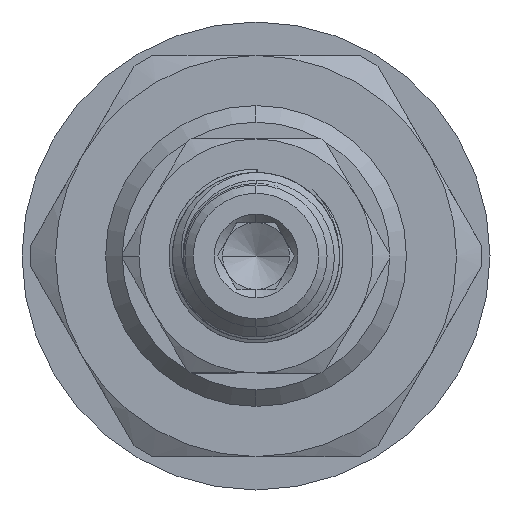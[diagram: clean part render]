
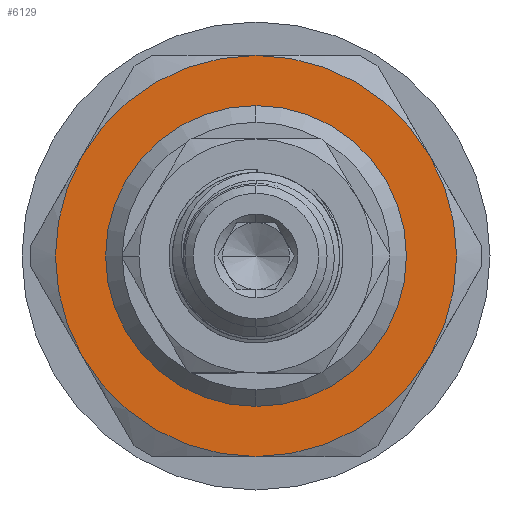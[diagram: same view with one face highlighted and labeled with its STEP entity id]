
A CAD part, left-side view. The second image highlights one B-rep face of the part: STEP entity #6129.
In plain terms, the highlighted planar face has unit normal (-1, 0, 0).
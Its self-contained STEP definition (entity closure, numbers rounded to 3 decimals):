
#177 = ORIENTED_EDGE ( 'NONE', *, *, #7992, .F. ) ;
#261 = EDGE_LOOP ( 'NONE', ( #4528, #13914, #1046, #13199, #177, #12728 ) ) ;
#613 = CIRCLE ( 'NONE', #6433, 12. ) ;
#1046 = ORIENTED_EDGE ( 'NONE', *, *, #1987, .F. ) ;
#1150 = VERTEX_POINT ( 'NONE', #6801 ) ;
#1635 = FACE_OUTER_BOUND ( 'NONE', #261, .T. ) ;
#1799 = CARTESIAN_POINT ( 'NONE',  ( -30.529, -0.516, 12. ) ) ;
#1987 = EDGE_CURVE ( 'NONE', #3637, #10742, #18203, .T. ) ;
#2061 = CARTESIAN_POINT ( 'NONE',  ( -30.529, -0.516, 0. ) ) ;
#2494 = CIRCLE ( 'NONE', #11277, 12. ) ;
#2912 = DIRECTION ( 'NONE',  ( 1., 0., 0. ) ) ;
#3050 = CARTESIAN_POINT ( 'NONE',  ( -30.529, -0.516, 0. ) ) ;
#3506 = DIRECTION ( 'NONE',  ( 0., 0., -1. ) ) ;
#3513 = DIRECTION ( 'NONE',  ( 1., 0., 0. ) ) ;
#3637 = VERTEX_POINT ( 'NONE', #14265 ) ;
#3833 = AXIS2_PLACEMENT_3D ( 'NONE', #15659, #7155, #17091 ) ;
#3903 = EDGE_CURVE ( 'NONE', #1150, #7172, #2494, .T. ) ;
#4292 = CARTESIAN_POINT ( 'NONE',  ( -30.529, -0.516, 0. ) ) ;
#4481 = DIRECTION ( 'NONE',  ( 0., 0., -1. ) ) ;
#4491 = AXIS2_PLACEMENT_3D ( 'NONE', #12030, #3513, #13472 ) ;
#4528 = ORIENTED_EDGE ( 'NONE', *, *, #17158, .F. ) ;
#4795 = VERTEX_POINT ( 'NONE', #5341 ) ;
#4802 = DIRECTION ( 'NONE',  ( 1., 0., 0. ) ) ;
#4975 = FACE_BOUND ( 'NONE', #13650, .T. ) ;
#5161 = AXIS2_PLACEMENT_3D ( 'NONE', #11427, #2912, #12867 ) ;
#5341 = CARTESIAN_POINT ( 'NONE',  ( -30.529, 9.876, -6. ) ) ;
#5708 = PLANE ( 'NONE',  #5161 ) ;
#5716 = DIRECTION ( 'NONE',  ( 0., 0., 1. ) ) ;
#5931 = CIRCLE ( 'NONE', #3833, 12. ) ;
#6129 = ADVANCED_FACE ( 'NONE', ( #4975, #1635 ), #5708, .F. ) ;
#6433 = AXIS2_PLACEMENT_3D ( 'NONE', #7828, #17760, #9261 ) ;
#6801 = CARTESIAN_POINT ( 'NONE',  ( -30.529, 9.876, 6. ) ) ;
#6820 = CARTESIAN_POINT ( 'NONE',  ( -30.529, -0.516, 9. ) ) ;
#7155 = DIRECTION ( 'NONE',  ( 1., 0., 0. ) ) ;
#7172 = VERTEX_POINT ( 'NONE', #1799 ) ;
#7472 = DIRECTION ( 'NONE',  ( 1., 0., 0. ) ) ;
#7489 = AXIS2_PLACEMENT_3D ( 'NONE', #4292, #14215, #5716 ) ;
#7828 = CARTESIAN_POINT ( 'NONE',  ( -30.529, -0.516, 0. ) ) ;
#7956 = EDGE_CURVE ( 'NONE', #13149, #15252, #11086, .T. ) ;
#7992 = EDGE_CURVE ( 'NONE', #7172, #16474, #14828, .T. ) ;
#8449 = AXIS2_PLACEMENT_3D ( 'NONE', #3050, #12998, #4481 ) ;
#9261 = DIRECTION ( 'NONE',  ( 0., 0., -1. ) ) ;
#10155 = EDGE_CURVE ( 'NONE', #16474, #3637, #16952, .T. ) ;
#10742 = VERTEX_POINT ( 'NONE', #13492 ) ;
#11086 = CIRCLE ( 'NONE', #7489, 9. ) ;
#11277 = AXIS2_PLACEMENT_3D ( 'NONE', #2061, #12021, #3506 ) ;
#11427 = CARTESIAN_POINT ( 'NONE',  ( -30.529, -12.66, 12.144 ) ) ;
#11741 = AXIS2_PLACEMENT_3D ( 'NONE', #13327, #4802, #14729 ) ;
#12021 = DIRECTION ( 'NONE',  ( 1., 0., 0. ) ) ;
#12030 = CARTESIAN_POINT ( 'NONE',  ( -30.529, -0.516, 0. ) ) ;
#12728 = ORIENTED_EDGE ( 'NONE', *, *, #3903, .F. ) ;
#12867 = DIRECTION ( 'NONE',  ( 0., 0., -1. ) ) ;
#12998 = DIRECTION ( 'NONE',  ( 1., 0., 0. ) ) ;
#13149 = VERTEX_POINT ( 'NONE', #6820 ) ;
#13169 = CARTESIAN_POINT ( 'NONE',  ( -30.529, -0.516, -9. ) ) ;
#13199 = ORIENTED_EDGE ( 'NONE', *, *, #10155, .F. ) ;
#13327 = CARTESIAN_POINT ( 'NONE',  ( -30.529, -0.516, 0. ) ) ;
#13472 = DIRECTION ( 'NONE',  ( 0., 0., -1. ) ) ;
#13492 = CARTESIAN_POINT ( 'NONE',  ( -30.529, -0.516, -12. ) ) ;
#13650 = EDGE_LOOP ( 'NONE', ( #15894, #15236 ) ) ;
#13914 = ORIENTED_EDGE ( 'NONE', *, *, #16923, .F. ) ;
#14215 = DIRECTION ( 'NONE',  ( 1., 0., 0. ) ) ;
#14265 = CARTESIAN_POINT ( 'NONE',  ( -30.529, -10.908, -6. ) ) ;
#14729 = DIRECTION ( 'NONE',  ( 0., 0., -1. ) ) ;
#14828 = CIRCLE ( 'NONE', #8449, 12. ) ;
#15236 = ORIENTED_EDGE ( 'NONE', *, *, #17680, .T. ) ;
#15252 = VERTEX_POINT ( 'NONE', #13169 ) ;
#15659 = CARTESIAN_POINT ( 'NONE',  ( -30.529, -0.516, 0. ) ) ;
#15781 = CARTESIAN_POINT ( 'NONE',  ( -30.529, -10.908, 6. ) ) ;
#15894 = ORIENTED_EDGE ( 'NONE', *, *, #7956, .T. ) ;
#15973 = CARTESIAN_POINT ( 'NONE',  ( -30.529, -0.516, 0. ) ) ;
#16474 = VERTEX_POINT ( 'NONE', #15781 ) ;
#16571 = CIRCLE ( 'NONE', #17876, 9. ) ;
#16923 = EDGE_CURVE ( 'NONE', #10742, #4795, #613, .T. ) ;
#16952 = CIRCLE ( 'NONE', #11741, 12. ) ;
#17091 = DIRECTION ( 'NONE',  ( 0., 0., -1. ) ) ;
#17158 = EDGE_CURVE ( 'NONE', #4795, #1150, #5931, .T. ) ;
#17401 = DIRECTION ( 'NONE',  ( 0., 0., 1. ) ) ;
#17680 = EDGE_CURVE ( 'NONE', #15252, #13149, #16571, .T. ) ;
#17760 = DIRECTION ( 'NONE',  ( 1., 0., 0. ) ) ;
#17876 = AXIS2_PLACEMENT_3D ( 'NONE', #15973, #7472, #17401 ) ;
#18203 = CIRCLE ( 'NONE', #4491, 12. ) ;
